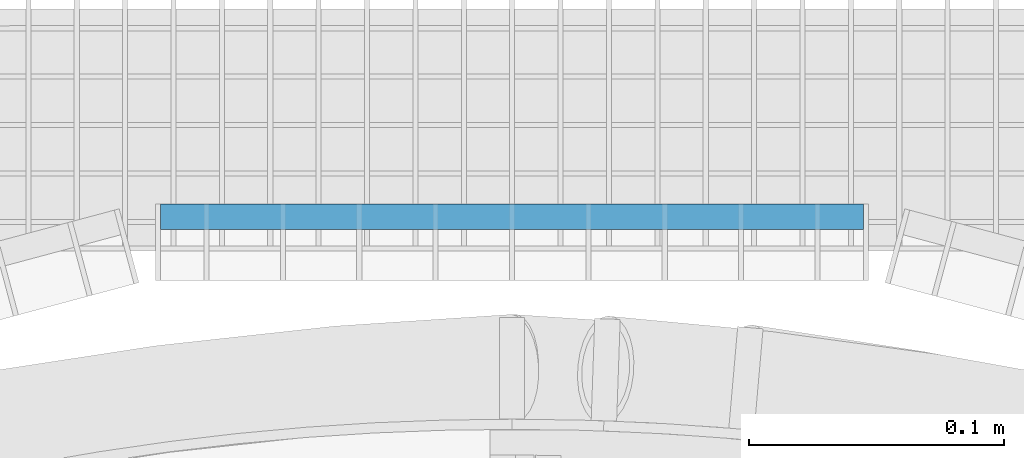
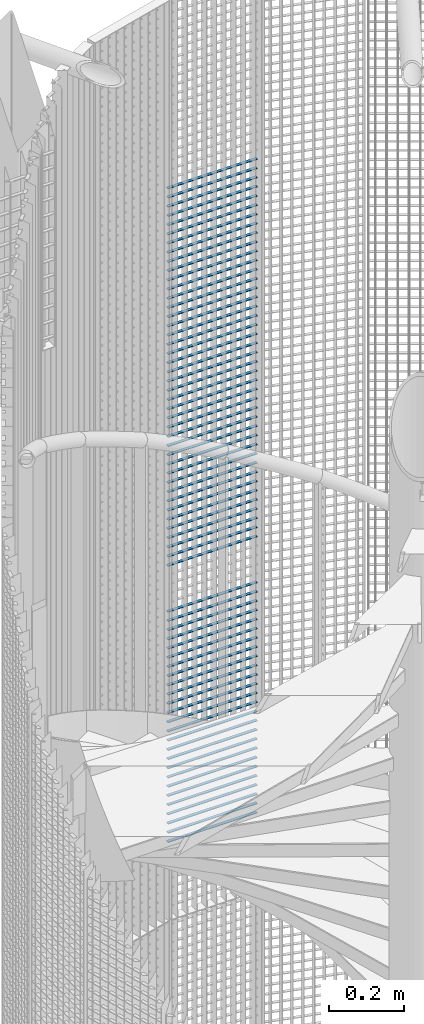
# One storey, part 305 of 1148: 68 beams, 1 element without a shape of its own.
"""IFC2X3 building model written with IfcOpenShell, lengths in millimetres."""

from ifc_helpers import new_model, si_unit, frame, origin_with_axes, origin_2d_with_axis, place, context, subcontext, project, spatial, rectangle, extrude, material, type_object, element, aggregate, save


model = new_model("IFC2X3")

# Units and contexts
model_context = context("Model", 3, precision=1e-05, world=origin_with_axes())
body_context = subcontext(model_context, "Body", "Model", "MODEL_VIEW")
ifc_project = project(units=[si_unit("LENGTHUNIT", "METRE", prefix="MILLI"), si_unit("AREAUNIT", "SQUARE_METRE"), si_unit("VOLUMEUNIT", "CUBIC_METRE"), si_unit("MASSUNIT", "GRAM", prefix="KILO"), si_unit("TIMEUNIT", "SECOND"), si_unit("PLANEANGLEUNIT", "RADIAN"), si_unit("SOLIDANGLEUNIT", "STERADIAN"), si_unit("THERMODYNAMICTEMPERATUREUNIT", "DEGREE_CELSIUS"), si_unit("LUMINOUSINTENSITYUNIT", "LUMEN")], contexts=[model_context])

# Site, building, storey
site_placement = place(None, origin_with_axes())
site = spatial("IfcSite", under=ifc_project, at=site_placement, Name="Undefined", CompositionType="ELEMENT")
building_placement = place(site_placement, origin_with_axes())
building = spatial("IfcBuilding", under=site, at=building_placement, Name="Undefined", CompositionType="ELEMENT")
storey_placement = place(building_placement, origin_with_axes())
storey = spatial("IfcBuildingStorey", under=building, at=storey_placement, Name="Undefined", CompositionType="ELEMENT", Elevation=0.0)

# Assembly, beams
assembly_placement = place(storey_placement, origin_with_axes())
assembly = element("IfcElementAssembly", 1, at=assembly_placement, inside=storey, Name="BORDURE", AssemblyPlace="NOTDEFINED", PredefinedType="NOTDEFINED")
ifc_material = material(Name="STEEL/S235JR")
beam_type = type_object("IfcBeamType", Name="PL2*10", PredefinedType="NOTDEFINED")
beam_1_placement = place(assembly_placement, frame((137.99600337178, 1113.47999999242, 5370.0), z_axis=(0.0, 1.0, 0.0), x_axis=(-1.0, 0.0, 0.0)))
beam_1 = element("IfcBeam", 2, at=beam_1_placement, type_object=beam_type, material=ifc_material, Name="ENTRETOISE", context=body_context, shape_type="SweptSolid", body=[
    extrude(rectangle(XDim=2.0, YDim=10.0, at=origin_2d_with_axis()), frame((275.999999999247, 9.09494701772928e-13, 1.53210777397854e-14), z_axis=(-1.0, 0.0, 0.0), x_axis=(0.0, -1.0, 0.0)), (0.0, 0.0, 1.0), 276.0),
])
beam_2_placement = place(assembly_placement, frame((137.99600337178, 1113.47999999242, 5340.0), z_axis=(0.0, 1.0, 0.0), x_axis=(-1.0, 0.0, 0.0)))
beam_2 = element("IfcBeam", 3, at=beam_2_placement, type_object=beam_type, material=ifc_material, Name="ENTRETOISE", context=body_context, shape_type="SweptSolid", body=[
    extrude(rectangle(XDim=2.0, YDim=10.0, at=origin_2d_with_axis()), frame((275.999999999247, 9.09494701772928e-13, 1.53210777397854e-14), z_axis=(-1.0, 0.0, 0.0), x_axis=(0.0, -1.0, 0.0)), (0.0, 0.0, 1.0), 276.0),
])
beam_3_placement = place(assembly_placement, frame((137.99600337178, 1113.47999999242, 5310.0), z_axis=(0.0, 1.0, 0.0), x_axis=(-1.0, 0.0, 0.0)))
beam_3 = element("IfcBeam", 4, at=beam_3_placement, type_object=beam_type, material=ifc_material, Name="ENTRETOISE", context=body_context, shape_type="SweptSolid", body=[
    extrude(rectangle(XDim=2.0, YDim=10.0, at=origin_2d_with_axis()), frame((275.999999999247, 9.09494701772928e-13, 1.53210777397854e-14), z_axis=(-1.0, 0.0, 0.0), x_axis=(0.0, -1.0, 0.0)), (0.0, 0.0, 1.0), 276.0),
])
beam_4_placement = place(assembly_placement, frame((137.99600337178, 1113.47999999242, 5280.0), z_axis=(0.0, 1.0, 0.0), x_axis=(-1.0, 0.0, 0.0)))
beam_4 = element("IfcBeam", 5, at=beam_4_placement, type_object=beam_type, material=ifc_material, Name="ENTRETOISE", context=body_context, shape_type="SweptSolid", body=[
    extrude(rectangle(XDim=2.0, YDim=10.0, at=origin_2d_with_axis()), frame((275.999999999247, 9.09494701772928e-13, 1.53210777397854e-14), z_axis=(-1.0, 0.0, 0.0), x_axis=(0.0, -1.0, 0.0)), (0.0, 0.0, 1.0), 276.0),
])
beam_5_placement = place(assembly_placement, frame((137.99600337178, 1113.47999999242, 5250.0), z_axis=(0.0, 1.0, 0.0), x_axis=(-1.0, 0.0, 0.0)))
beam_5 = element("IfcBeam", 6, at=beam_5_placement, type_object=beam_type, material=ifc_material, Name="ENTRETOISE", context=body_context, shape_type="SweptSolid", body=[
    extrude(rectangle(XDim=2.0, YDim=10.0, at=origin_2d_with_axis()), frame((275.999999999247, 9.09494701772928e-13, 1.53210777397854e-14), z_axis=(-1.0, 0.0, 0.0), x_axis=(0.0, -1.0, 0.0)), (0.0, 0.0, 1.0), 276.0),
])
beam_6_placement = place(assembly_placement, frame((137.99600337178, 1113.47999999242, 5220.0), z_axis=(0.0, 1.0, 0.0), x_axis=(-1.0, 0.0, 0.0)))
beam_6 = element("IfcBeam", 7, at=beam_6_placement, type_object=beam_type, material=ifc_material, Name="ENTRETOISE", context=body_context, shape_type="SweptSolid", body=[
    extrude(rectangle(XDim=2.0, YDim=10.0, at=origin_2d_with_axis()), frame((275.999999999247, 9.09494701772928e-13, 1.53210777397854e-14), z_axis=(-1.0, 0.0, 0.0), x_axis=(0.0, -1.0, 0.0)), (0.0, 0.0, 1.0), 276.0),
])
beam_7_placement = place(assembly_placement, frame((137.99600337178, 1113.47999999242, 5190.0), z_axis=(0.0, 1.0, 0.0), x_axis=(-1.0, 0.0, 0.0)))
beam_7 = element("IfcBeam", 8, at=beam_7_placement, type_object=beam_type, material=ifc_material, Name="ENTRETOISE", context=body_context, shape_type="SweptSolid", body=[
    extrude(rectangle(XDim=2.0, YDim=10.0, at=origin_2d_with_axis()), frame((275.999999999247, 9.09494701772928e-13, 1.53210777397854e-14), z_axis=(-1.0, 0.0, 0.0), x_axis=(0.0, -1.0, 0.0)), (0.0, 0.0, 1.0), 276.0),
])
beam_8_placement = place(assembly_placement, frame((137.99600337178, 1113.47999999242, 5160.0), z_axis=(0.0, 1.0, 0.0), x_axis=(-1.0, 0.0, 0.0)))
beam_8 = element("IfcBeam", 9, at=beam_8_placement, type_object=beam_type, material=ifc_material, Name="ENTRETOISE", context=body_context, shape_type="SweptSolid", body=[
    extrude(rectangle(XDim=2.0, YDim=10.0, at=origin_2d_with_axis()), frame((275.999999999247, 9.09494701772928e-13, 1.53210777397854e-14), z_axis=(-1.0, 0.0, 0.0), x_axis=(0.0, -1.0, 0.0)), (0.0, 0.0, 1.0), 276.0),
])
beam_9_placement = place(assembly_placement, frame((137.99600337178, 1113.47999999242, 5130.0), z_axis=(0.0, 1.0, 0.0), x_axis=(-1.0, 0.0, 0.0)))
beam_9 = element("IfcBeam", 10, at=beam_9_placement, type_object=beam_type, material=ifc_material, Name="ENTRETOISE", context=body_context, shape_type="SweptSolid", body=[
    extrude(rectangle(XDim=2.0, YDim=10.0, at=origin_2d_with_axis()), frame((275.999999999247, 9.09494701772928e-13, 1.53210777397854e-14), z_axis=(-1.0, 0.0, 0.0), x_axis=(0.0, -1.0, 0.0)), (0.0, 0.0, 1.0), 276.0),
])
beam_10_placement = place(assembly_placement, frame((137.996003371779, 1113.47999999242, 5100.0), z_axis=(0.0, 1.0, 0.0), x_axis=(-1.0, 0.0, 0.0)))
beam_10 = element("IfcBeam", 11, at=beam_10_placement, type_object=beam_type, material=ifc_material, Name="ENTRETOISE", context=body_context, shape_type="SweptSolid", body=[
    extrude(rectangle(XDim=2.0, YDim=10.0, at=origin_2d_with_axis()), frame((275.999999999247, 9.09494701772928e-13, 1.53210777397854e-14), z_axis=(-1.0, 0.0, 0.0), x_axis=(0.0, -1.0, 0.0)), (0.0, 0.0, 1.0), 276.0),
])
beam_11_placement = place(assembly_placement, frame((137.996003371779, 1113.47999999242, 5070.0), z_axis=(0.0, 1.0, 0.0), x_axis=(-1.0, 0.0, 0.0)))
beam_11 = element("IfcBeam", 12, at=beam_11_placement, type_object=beam_type, material=ifc_material, Name="ENTRETOISE", context=body_context, shape_type="SweptSolid", body=[
    extrude(rectangle(XDim=2.0, YDim=10.0, at=origin_2d_with_axis()), frame((275.999999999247, 9.09494701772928e-13, 1.53210777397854e-14), z_axis=(-1.0, 0.0, 0.0), x_axis=(0.0, -1.0, 0.0)), (0.0, 0.0, 1.0), 276.0),
])
beam_12_placement = place(assembly_placement, frame((137.996003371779, 1113.47999999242, 5040.0), z_axis=(0.0, 1.0, 0.0), x_axis=(-1.0, 0.0, 0.0)))
beam_12 = element("IfcBeam", 13, at=beam_12_placement, type_object=beam_type, material=ifc_material, Name="ENTRETOISE", context=body_context, shape_type="SweptSolid", body=[
    extrude(rectangle(XDim=2.0, YDim=10.0, at=origin_2d_with_axis()), frame((275.999999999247, 9.09494701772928e-13, 1.53210777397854e-14), z_axis=(-1.0, 0.0, 0.0), x_axis=(0.0, -1.0, 0.0)), (0.0, 0.0, 1.0), 276.0),
])
beam_13_placement = place(assembly_placement, frame((137.996003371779, 1113.47999999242, 5010.0), z_axis=(0.0, 1.0, 0.0), x_axis=(-1.0, 0.0, 0.0)))
beam_13 = element("IfcBeam", 14, at=beam_13_placement, type_object=beam_type, material=ifc_material, Name="ENTRETOISE", context=body_context, shape_type="SweptSolid", body=[
    extrude(rectangle(XDim=2.0, YDim=10.0, at=origin_2d_with_axis()), frame((275.999999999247, 9.09494701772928e-13, 1.53210777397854e-14), z_axis=(-1.0, 0.0, 0.0), x_axis=(0.0, -1.0, 0.0)), (0.0, 0.0, 1.0), 276.0),
])
beam_14_placement = place(assembly_placement, frame((137.996003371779, 1113.47999999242, 4980.0), z_axis=(0.0, 1.0, 0.0), x_axis=(-1.0, 0.0, 0.0)))
beam_14 = element("IfcBeam", 15, at=beam_14_placement, type_object=beam_type, material=ifc_material, Name="ENTRETOISE", context=body_context, shape_type="SweptSolid", body=[
    extrude(rectangle(XDim=2.0, YDim=10.0, at=origin_2d_with_axis()), frame((275.999999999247, 9.09494701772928e-13, 1.53210777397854e-14), z_axis=(-1.0, 0.0, 0.0), x_axis=(0.0, -1.0, 0.0)), (0.0, 0.0, 1.0), 276.0),
])
beam_15_placement = place(assembly_placement, frame((137.996003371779, 1113.47999999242, 4950.0), z_axis=(0.0, 1.0, 0.0), x_axis=(-1.0, 0.0, 0.0)))
beam_15 = element("IfcBeam", 16, at=beam_15_placement, type_object=beam_type, material=ifc_material, Name="ENTRETOISE", context=body_context, shape_type="SweptSolid", body=[
    extrude(rectangle(XDim=2.0, YDim=10.0, at=origin_2d_with_axis()), frame((275.999999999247, 9.09494701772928e-13, 1.53210777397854e-14), z_axis=(-1.0, 0.0, 0.0), x_axis=(0.0, -1.0, 0.0)), (0.0, 0.0, 1.0), 276.0),
])
beam_16_placement = place(assembly_placement, frame((137.996003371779, 1113.47999999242, 4920.0), z_axis=(0.0, 1.0, 0.0), x_axis=(-1.0, 0.0, 0.0)))
beam_16 = element("IfcBeam", 17, at=beam_16_placement, type_object=beam_type, material=ifc_material, Name="ENTRETOISE", context=body_context, shape_type="SweptSolid", body=[
    extrude(rectangle(XDim=2.0, YDim=10.0, at=origin_2d_with_axis()), frame((275.999999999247, 9.09494701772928e-13, 1.53210777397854e-14), z_axis=(-1.0, 0.0, 0.0), x_axis=(0.0, -1.0, 0.0)), (0.0, 0.0, 1.0), 276.0),
])
beam_17_placement = place(assembly_placement, frame((137.996003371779, 1113.47999999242, 4890.0), z_axis=(0.0, 1.0, 0.0), x_axis=(-1.0, 0.0, 0.0)))
beam_17 = element("IfcBeam", 18, at=beam_17_placement, type_object=beam_type, material=ifc_material, Name="ENTRETOISE", context=body_context, shape_type="SweptSolid", body=[
    extrude(rectangle(XDim=2.0, YDim=10.0, at=origin_2d_with_axis()), frame((275.999999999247, 9.09494701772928e-13, 1.53210777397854e-14), z_axis=(-1.0, 0.0, 0.0), x_axis=(0.0, -1.0, 0.0)), (0.0, 0.0, 1.0), 276.0),
])
beam_18_placement = place(assembly_placement, frame((137.996003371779, 1113.47999999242, 4860.0), z_axis=(0.0, 1.0, 0.0), x_axis=(-1.0, 0.0, 0.0)))
beam_18 = element("IfcBeam", 19, at=beam_18_placement, type_object=beam_type, material=ifc_material, Name="ENTRETOISE", context=body_context, shape_type="SweptSolid", body=[
    extrude(rectangle(XDim=2.0, YDim=10.0, at=origin_2d_with_axis()), frame((275.999999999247, 9.09494701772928e-13, 1.53210777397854e-14), z_axis=(-1.0, 0.0, 0.0), x_axis=(0.0, -1.0, 0.0)), (0.0, 0.0, 1.0), 276.0),
])
beam_19_placement = place(assembly_placement, frame((137.996003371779, 1113.47999999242, 4830.0), z_axis=(0.0, 1.0, 0.0), x_axis=(-1.0, 0.0, 0.0)))
beam_19 = element("IfcBeam", 20, at=beam_19_placement, type_object=beam_type, material=ifc_material, Name="ENTRETOISE", context=body_context, shape_type="SweptSolid", body=[
    extrude(rectangle(XDim=2.0, YDim=10.0, at=origin_2d_with_axis()), frame((275.999999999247, 9.09494701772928e-13, 1.53210777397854e-14), z_axis=(-1.0, 0.0, 0.0), x_axis=(0.0, -1.0, 0.0)), (0.0, 0.0, 1.0), 276.0),
])
beam_20_placement = place(assembly_placement, frame((137.996003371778, 1113.47999999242, 4800.0), z_axis=(0.0, 1.0, 0.0), x_axis=(-1.0, 0.0, 0.0)))
beam_20 = element("IfcBeam", 21, at=beam_20_placement, type_object=beam_type, material=ifc_material, Name="ENTRETOISE", context=body_context, shape_type="SweptSolid", body=[
    extrude(rectangle(XDim=2.0, YDim=10.0, at=origin_2d_with_axis()), frame((275.999999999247, 9.09494701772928e-13, 1.53210777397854e-14), z_axis=(-1.0, 0.0, 0.0), x_axis=(0.0, -1.0, 0.0)), (0.0, 0.0, 1.0), 276.0),
])
beam_21_placement = place(assembly_placement, frame((137.996003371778, 1113.47999999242, 4770.0), z_axis=(0.0, 1.0, 0.0), x_axis=(-1.0, 0.0, 0.0)))
beam_21 = element("IfcBeam", 22, at=beam_21_placement, type_object=beam_type, material=ifc_material, Name="ENTRETOISE", context=body_context, shape_type="SweptSolid", body=[
    extrude(rectangle(XDim=2.0, YDim=10.0, at=origin_2d_with_axis()), frame((275.999999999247, 9.09494701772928e-13, 1.53210777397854e-14), z_axis=(-1.0, 0.0, 0.0), x_axis=(0.0, -1.0, 0.0)), (0.0, 0.0, 1.0), 276.0),
])
beam_22_placement = place(assembly_placement, frame((137.996003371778, 1113.47999999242, 4740.0), z_axis=(0.0, 1.0, 0.0), x_axis=(-1.0, 0.0, 0.0)))
beam_22 = element("IfcBeam", 23, at=beam_22_placement, type_object=beam_type, material=ifc_material, Name="ENTRETOISE", context=body_context, shape_type="SweptSolid", body=[
    extrude(rectangle(XDim=2.0, YDim=10.0, at=origin_2d_with_axis()), frame((275.999999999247, 9.09494701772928e-13, 1.53210777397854e-14), z_axis=(-1.0, 0.0, 0.0), x_axis=(0.0, -1.0, 0.0)), (0.0, 0.0, 1.0), 276.0),
])
beam_23_placement = place(assembly_placement, frame((137.996003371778, 1113.47999999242, 4710.0), z_axis=(0.0, 1.0, 0.0), x_axis=(-1.0, 0.0, 0.0)))
beam_23 = element("IfcBeam", 24, at=beam_23_placement, type_object=beam_type, material=ifc_material, Name="ENTRETOISE", context=body_context, shape_type="SweptSolid", body=[
    extrude(rectangle(XDim=2.0, YDim=10.0, at=origin_2d_with_axis()), frame((275.999999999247, 9.09494701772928e-13, 1.53210777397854e-14), z_axis=(-1.0, 0.0, 0.0), x_axis=(0.0, -1.0, 0.0)), (0.0, 0.0, 1.0), 276.0),
])
beam_24_placement = place(assembly_placement, frame((137.996003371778, 1113.47999999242, 4680.0), z_axis=(0.0, 1.0, 0.0), x_axis=(-1.0, 0.0, 0.0)))
beam_24 = element("IfcBeam", 25, at=beam_24_placement, type_object=beam_type, material=ifc_material, Name="ENTRETOISE", context=body_context, shape_type="SweptSolid", body=[
    extrude(rectangle(XDim=2.0, YDim=10.0, at=origin_2d_with_axis()), frame((275.999999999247, 9.09494701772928e-13, 1.53210777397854e-14), z_axis=(-1.0, 0.0, 0.0), x_axis=(0.0, -1.0, 0.0)), (0.0, 0.0, 1.0), 276.0),
])
beam_25_placement = place(assembly_placement, frame((137.996003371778, 1113.47999999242, 4650.0), z_axis=(0.0, 1.0, 0.0), x_axis=(-1.0, 0.0, 0.0)))
beam_25 = element("IfcBeam", 26, at=beam_25_placement, type_object=beam_type, material=ifc_material, Name="ENTRETOISE", context=body_context, shape_type="SweptSolid", body=[
    extrude(rectangle(XDim=2.0, YDim=10.0, at=origin_2d_with_axis()), frame((275.999999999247, 9.09494701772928e-13, 1.53210777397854e-14), z_axis=(-1.0, 0.0, 0.0), x_axis=(0.0, -1.0, 0.0)), (0.0, 0.0, 1.0), 276.0),
])
beam_26_placement = place(assembly_placement, frame((137.996003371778, 1113.47999999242, 4620.0), z_axis=(0.0, 1.0, 0.0), x_axis=(-1.0, 0.0, 0.0)))
beam_26 = element("IfcBeam", 27, at=beam_26_placement, type_object=beam_type, material=ifc_material, Name="ENTRETOISE", context=body_context, shape_type="SweptSolid", body=[
    extrude(rectangle(XDim=2.0, YDim=10.0, at=origin_2d_with_axis()), frame((275.999999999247, 9.09494701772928e-13, 1.53210777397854e-14), z_axis=(-1.0, 0.0, 0.0), x_axis=(0.0, -1.0, 0.0)), (0.0, 0.0, 1.0), 276.0),
])
beam_27_placement = place(assembly_placement, frame((137.996003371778, 1113.47999999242, 4590.0), z_axis=(0.0, 1.0, 0.0), x_axis=(-1.0, 0.0, 0.0)))
beam_27 = element("IfcBeam", 28, at=beam_27_placement, type_object=beam_type, material=ifc_material, Name="ENTRETOISE", context=body_context, shape_type="SweptSolid", body=[
    extrude(rectangle(XDim=2.0, YDim=10.0, at=origin_2d_with_axis()), frame((275.999999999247, 9.09494701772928e-13, 1.53210777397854e-14), z_axis=(-1.0, 0.0, 0.0), x_axis=(0.0, -1.0, 0.0)), (0.0, 0.0, 1.0), 276.0),
])
beam_28_placement = place(assembly_placement, frame((137.996003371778, 1113.47999999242, 4560.0), z_axis=(0.0, 1.0, 0.0), x_axis=(-1.0, 0.0, 0.0)))
beam_28 = element("IfcBeam", 29, at=beam_28_placement, type_object=beam_type, material=ifc_material, Name="ENTRETOISE", context=body_context, shape_type="SweptSolid", body=[
    extrude(rectangle(XDim=2.0, YDim=10.0, at=origin_2d_with_axis()), frame((275.999999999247, 9.09494701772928e-13, 1.53210777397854e-14), z_axis=(-1.0, 0.0, 0.0), x_axis=(0.0, -1.0, 0.0)), (0.0, 0.0, 1.0), 276.0),
])
beam_29_placement = place(assembly_placement, frame((137.996003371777, 1113.47999999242, 4530.0), z_axis=(0.0, 1.0, 0.0), x_axis=(-1.0, 0.0, 0.0)))
beam_29 = element("IfcBeam", 30, at=beam_29_placement, type_object=beam_type, material=ifc_material, Name="ENTRETOISE", context=body_context, shape_type="SweptSolid", body=[
    extrude(rectangle(XDim=2.0, YDim=10.0, at=origin_2d_with_axis()), frame((275.999999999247, 9.09494701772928e-13, 1.53210777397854e-14), z_axis=(-1.0, 0.0, 0.0), x_axis=(0.0, -1.0, 0.0)), (0.0, 0.0, 1.0), 276.0),
])
beam_30_placement = place(assembly_placement, frame((137.996003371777, 1113.47999999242, 4500.0), z_axis=(0.0, 1.0, 0.0), x_axis=(-1.0, 0.0, 0.0)))
beam_30 = element("IfcBeam", 31, at=beam_30_placement, type_object=beam_type, material=ifc_material, Name="ENTRETOISE", context=body_context, shape_type="SweptSolid", body=[
    extrude(rectangle(XDim=2.0, YDim=10.0, at=origin_2d_with_axis()), frame((275.999999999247, 9.09494701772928e-13, 1.53210777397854e-14), z_axis=(-1.0, 0.0, 0.0), x_axis=(0.0, -1.0, 0.0)), (0.0, 0.0, 1.0), 276.0),
])
beam_31_placement = place(assembly_placement, frame((137.996003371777, 1113.47999999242, 4470.0), z_axis=(0.0, 1.0, 0.0), x_axis=(-1.0, 0.0, 0.0)))
beam_31 = element("IfcBeam", 32, at=beam_31_placement, type_object=beam_type, material=ifc_material, Name="ENTRETOISE", context=body_context, shape_type="SweptSolid", body=[
    extrude(rectangle(XDim=2.0, YDim=10.0, at=origin_2d_with_axis()), frame((275.999999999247, 9.09494701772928e-13, 1.53210777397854e-14), z_axis=(-1.0, 0.0, 0.0), x_axis=(0.0, -1.0, 0.0)), (0.0, 0.0, 1.0), 276.0),
])
beam_32_placement = place(assembly_placement, frame((137.996003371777, 1113.47999999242, 4440.0), z_axis=(0.0, 1.0, 0.0), x_axis=(-1.0, 0.0, 0.0)))
beam_32 = element("IfcBeam", 33, at=beam_32_placement, type_object=beam_type, material=ifc_material, Name="ENTRETOISE", context=body_context, shape_type="SweptSolid", body=[
    extrude(rectangle(XDim=2.0, YDim=10.0, at=origin_2d_with_axis()), frame((275.999999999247, 9.09494701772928e-13, 1.53210777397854e-14), z_axis=(-1.0, 0.0, 0.0), x_axis=(0.0, -1.0, 0.0)), (0.0, 0.0, 1.0), 276.0),
])
beam_33_placement = place(assembly_placement, frame((137.996003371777, 1113.47999999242, 4410.0), z_axis=(0.0, 1.0, 0.0), x_axis=(-1.0, 0.0, 0.0)))
beam_33 = element("IfcBeam", 34, at=beam_33_placement, type_object=beam_type, material=ifc_material, Name="ENTRETOISE", context=body_context, shape_type="SweptSolid", body=[
    extrude(rectangle(XDim=2.0, YDim=10.0, at=origin_2d_with_axis()), frame((275.999999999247, 9.09494701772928e-13, 1.53210777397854e-14), z_axis=(-1.0, 0.0, 0.0), x_axis=(0.0, -1.0, 0.0)), (0.0, 0.0, 1.0), 276.0),
])
beam_34_placement = place(assembly_placement, frame((137.996003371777, 1113.47999999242, 4380.0), z_axis=(0.0, 1.0, 0.0), x_axis=(-1.0, 0.0, 0.0)))
beam_34 = element("IfcBeam", 35, at=beam_34_placement, type_object=beam_type, material=ifc_material, Name="ENTRETOISE", context=body_context, shape_type="SweptSolid", body=[
    extrude(rectangle(XDim=2.0, YDim=10.0, at=origin_2d_with_axis()), frame((275.999999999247, 9.09494701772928e-13, 1.53210777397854e-14), z_axis=(-1.0, 0.0, 0.0), x_axis=(0.0, -1.0, 0.0)), (0.0, 0.0, 1.0), 276.0),
])
beam_35_placement = place(assembly_placement, frame((137.996003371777, 1113.47999999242, 4350.0), z_axis=(0.0, 1.0, 0.0), x_axis=(-1.0, 0.0, 0.0)))
beam_35 = element("IfcBeam", 36, at=beam_35_placement, type_object=beam_type, material=ifc_material, Name="ENTRETOISE", context=body_context, shape_type="SweptSolid", body=[
    extrude(rectangle(XDim=2.0, YDim=10.0, at=origin_2d_with_axis()), frame((275.999999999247, 9.09494701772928e-13, 1.53210777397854e-14), z_axis=(-1.0, 0.0, 0.0), x_axis=(0.0, -1.0, 0.0)), (0.0, 0.0, 1.0), 276.0),
])
beam_36_placement = place(assembly_placement, frame((137.996003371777, 1113.47999999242, 4320.0), z_axis=(0.0, 1.0, 0.0), x_axis=(-1.0, 0.0, 0.0)))
beam_36 = element("IfcBeam", 37, at=beam_36_placement, type_object=beam_type, material=ifc_material, Name="ENTRETOISE", context=body_context, shape_type="SweptSolid", body=[
    extrude(rectangle(XDim=2.0, YDim=10.0, at=origin_2d_with_axis()), frame((275.999999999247, 9.09494701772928e-13, 1.53210777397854e-14), z_axis=(-1.0, 0.0, 0.0), x_axis=(0.0, -1.0, 0.0)), (0.0, 0.0, 1.0), 276.0),
])
beam_37_placement = place(assembly_placement, frame((137.996003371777, 1113.47999999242, 4290.0), z_axis=(0.0, 1.0, 0.0), x_axis=(-1.0, 0.0, 0.0)))
beam_37 = element("IfcBeam", 38, at=beam_37_placement, type_object=beam_type, material=ifc_material, Name="ENTRETOISE", context=body_context, shape_type="SweptSolid", body=[
    extrude(rectangle(XDim=2.0, YDim=10.0, at=origin_2d_with_axis()), frame((275.999999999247, 9.09494701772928e-13, 1.53210777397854e-14), z_axis=(-1.0, 0.0, 0.0), x_axis=(0.0, -1.0, 0.0)), (0.0, 0.0, 1.0), 276.0),
])
beam_38_placement = place(assembly_placement, frame((137.996003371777, 1113.47999999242, 4260.0), z_axis=(0.0, 1.0, 0.0), x_axis=(-1.0, 0.0, 0.0)))
beam_38 = element("IfcBeam", 39, at=beam_38_placement, type_object=beam_type, material=ifc_material, Name="ENTRETOISE", context=body_context, shape_type="SweptSolid", body=[
    extrude(rectangle(XDim=2.0, YDim=10.0, at=origin_2d_with_axis()), frame((275.999999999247, 9.09494701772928e-13, 1.53210777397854e-14), z_axis=(-1.0, 0.0, 0.0), x_axis=(0.0, -1.0, 0.0)), (0.0, 0.0, 1.0), 276.0),
])
beam_39_placement = place(assembly_placement, frame((137.996003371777, 1113.47999999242, 4230.0), z_axis=(0.0, 1.0, 0.0), x_axis=(-1.0, 0.0, 0.0)))
beam_39 = element("IfcBeam", 40, at=beam_39_placement, type_object=beam_type, material=ifc_material, Name="ENTRETOISE", context=body_context, shape_type="SweptSolid", body=[
    extrude(rectangle(XDim=2.0, YDim=10.0, at=origin_2d_with_axis()), frame((275.999999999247, 9.09494701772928e-13, 1.53210777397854e-14), z_axis=(-1.0, 0.0, 0.0), x_axis=(0.0, -1.0, 0.0)), (0.0, 0.0, 1.0), 276.0),
])
beam_40_placement = place(assembly_placement, frame((137.996003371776, 1113.47999999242, 4200.0), z_axis=(0.0, 1.0, 0.0), x_axis=(-1.0, 0.0, 0.0)))
beam_40 = element("IfcBeam", 41, at=beam_40_placement, type_object=beam_type, material=ifc_material, Name="ENTRETOISE", context=body_context, shape_type="SweptSolid", body=[
    extrude(rectangle(XDim=2.0, YDim=10.0, at=origin_2d_with_axis()), frame((275.999999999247, 9.09494701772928e-13, 1.53210777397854e-14), z_axis=(-1.0, 0.0, 0.0), x_axis=(0.0, -1.0, 0.0)), (0.0, 0.0, 1.0), 276.0),
])
beam_41_placement = place(assembly_placement, frame((137.996003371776, 1113.47999999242, 4170.0), z_axis=(0.0, 1.0, 0.0), x_axis=(-1.0, 0.0, 0.0)))
beam_41 = element("IfcBeam", 42, at=beam_41_placement, type_object=beam_type, material=ifc_material, Name="ENTRETOISE", context=body_context, shape_type="SweptSolid", body=[
    extrude(rectangle(XDim=2.0, YDim=10.0, at=origin_2d_with_axis()), frame((275.999999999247, 9.09494701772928e-13, 1.53210777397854e-14), z_axis=(-1.0, 0.0, 0.0), x_axis=(0.0, -1.0, 0.0)), (0.0, 0.0, 1.0), 276.0),
])
beam_42_placement = place(assembly_placement, frame((137.996003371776, 1113.47999999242, 4140.0), z_axis=(0.0, 1.0, 0.0), x_axis=(-1.0, 0.0, 0.0)))
beam_42 = element("IfcBeam", 43, at=beam_42_placement, type_object=beam_type, material=ifc_material, Name="ENTRETOISE", context=body_context, shape_type="SweptSolid", body=[
    extrude(rectangle(XDim=2.0, YDim=10.0, at=origin_2d_with_axis()), frame((275.999999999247, 9.09494701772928e-13, 1.53210777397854e-14), z_axis=(-1.0, 0.0, 0.0), x_axis=(0.0, -1.0, 0.0)), (0.0, 0.0, 1.0), 276.0),
])
beam_43_placement = place(assembly_placement, frame((137.996003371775, 1113.47999999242, 3720.0), z_axis=(0.0, 1.0, 0.0), x_axis=(-1.0, 0.0, 0.0)))
beam_43 = element("IfcBeam", 44, at=beam_43_placement, type_object=beam_type, material=ifc_material, Name="ENTRETOISE", context=body_context, shape_type="SweptSolid", body=[
    extrude(rectangle(XDim=2.0, YDim=10.0, at=origin_2d_with_axis()), frame((275.999999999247, 9.09494701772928e-13, 1.53210777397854e-14), z_axis=(-1.0, 0.0, 0.0), x_axis=(0.0, -1.0, 0.0)), (0.0, 0.0, 1.0), 276.0),
])
beam_44_placement = place(assembly_placement, frame((137.996003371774, 1113.47999999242, 3690.0), z_axis=(0.0, 1.0, 0.0), x_axis=(-1.0, 0.0, 0.0)))
beam_44 = element("IfcBeam", 45, at=beam_44_placement, type_object=beam_type, material=ifc_material, Name="ENTRETOISE", context=body_context, shape_type="SweptSolid", body=[
    extrude(rectangle(XDim=2.0, YDim=10.0, at=origin_2d_with_axis()), frame((275.999999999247, 9.09494701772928e-13, 1.53210777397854e-14), z_axis=(-1.0, 0.0, 0.0), x_axis=(0.0, -1.0, 0.0)), (0.0, 0.0, 1.0), 276.0),
])
beam_45_placement = place(assembly_placement, frame((137.996003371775, 1113.47999999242, 3750.0), z_axis=(0.0, 1.0, 0.0), x_axis=(-1.0, 0.0, 0.0)))
beam_45 = element("IfcBeam", 46, at=beam_45_placement, type_object=beam_type, material=ifc_material, Name="ENTRETOISE", context=body_context, shape_type="SweptSolid", body=[
    extrude(rectangle(XDim=2.0, YDim=10.0, at=origin_2d_with_axis()), frame((275.999999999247, 9.09494701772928e-13, 1.53210777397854e-14), z_axis=(-1.0, 0.0, 0.0), x_axis=(0.0, -1.0, 0.0)), (0.0, 0.0, 1.0), 276.0),
])
beam_46_placement = place(assembly_placement, frame((137.996003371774, 1113.47999999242, 3660.0), z_axis=(0.0, 1.0, 0.0), x_axis=(-1.0, 0.0, 0.0)))
beam_46 = element("IfcBeam", 47, at=beam_46_placement, type_object=beam_type, material=ifc_material, Name="ENTRETOISE", context=body_context, shape_type="SweptSolid", body=[
    extrude(rectangle(XDim=2.0, YDim=10.0, at=origin_2d_with_axis()), frame((275.999999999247, 9.09494701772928e-13, 1.53210777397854e-14), z_axis=(-1.0, 0.0, 0.0), x_axis=(0.0, -1.0, 0.0)), (0.0, 0.0, 1.0), 276.0),
])
beam_47_placement = place(assembly_placement, frame((137.996003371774, 1113.47999999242, 3630.0), z_axis=(0.0, 1.0, 0.0), x_axis=(-1.0, 0.0, 0.0)))
beam_47 = element("IfcBeam", 48, at=beam_47_placement, type_object=beam_type, material=ifc_material, Name="ENTRETOISE", context=body_context, shape_type="SweptSolid", body=[
    extrude(rectangle(XDim=2.0, YDim=10.0, at=origin_2d_with_axis()), frame((275.999999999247, 9.09494701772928e-13, 1.53210777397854e-14), z_axis=(-1.0, 0.0, 0.0), x_axis=(0.0, -1.0, 0.0)), (0.0, 0.0, 1.0), 276.0),
])
beam_48_placement = place(assembly_placement, frame((137.996003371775, 1113.47999999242, 3780.0), z_axis=(0.0, 1.0, 0.0), x_axis=(-1.0, 0.0, 0.0)))
beam_48 = element("IfcBeam", 49, at=beam_48_placement, type_object=beam_type, material=ifc_material, Name="ENTRETOISE", context=body_context, shape_type="SweptSolid", body=[
    extrude(rectangle(XDim=2.0, YDim=10.0, at=origin_2d_with_axis()), frame((275.999999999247, 9.09494701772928e-13, 1.53210777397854e-14), z_axis=(-1.0, 0.0, 0.0), x_axis=(0.0, -1.0, 0.0)), (0.0, 0.0, 1.0), 276.0),
])
beam_49_placement = place(assembly_placement, frame((137.996003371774, 1113.47999999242, 3600.0), z_axis=(0.0, 1.0, 0.0), x_axis=(-1.0, 0.0, 0.0)))
beam_49 = element("IfcBeam", 50, at=beam_49_placement, type_object=beam_type, material=ifc_material, Name="ENTRETOISE", context=body_context, shape_type="SweptSolid", body=[
    extrude(rectangle(XDim=2.0, YDim=10.0, at=origin_2d_with_axis()), frame((275.999999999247, 9.09494701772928e-13, 1.53210777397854e-14), z_axis=(-1.0, 0.0, 0.0), x_axis=(0.0, -1.0, 0.0)), (0.0, 0.0, 1.0), 276.0),
])
beam_50_placement = place(assembly_placement, frame((137.996003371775, 1113.47999999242, 3810.0), z_axis=(0.0, 1.0, 0.0), x_axis=(-1.0, 0.0, 0.0)))
beam_50 = element("IfcBeam", 51, at=beam_50_placement, type_object=beam_type, material=ifc_material, Name="ENTRETOISE", context=body_context, shape_type="SweptSolid", body=[
    extrude(rectangle(XDim=2.0, YDim=10.0, at=origin_2d_with_axis()), frame((275.999999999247, 9.09494701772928e-13, 1.53210777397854e-14), z_axis=(-1.0, 0.0, 0.0), x_axis=(0.0, -1.0, 0.0)), (0.0, 0.0, 1.0), 276.0),
])
beam_51_placement = place(assembly_placement, frame((137.996003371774, 1113.47999999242, 3570.0), z_axis=(0.0, 1.0, 0.0), x_axis=(-1.0, 0.0, 0.0)))
beam_51 = element("IfcBeam", 52, at=beam_51_placement, type_object=beam_type, material=ifc_material, Name="ENTRETOISE", context=body_context, shape_type="SweptSolid", body=[
    extrude(rectangle(XDim=2.0, YDim=10.0, at=origin_2d_with_axis()), frame((275.999999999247, 9.09494701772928e-13, 1.53210777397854e-14), z_axis=(-1.0, 0.0, 0.0), x_axis=(0.0, -1.0, 0.0)), (0.0, 0.0, 1.0), 276.0),
])
beam_52_placement = place(assembly_placement, frame((137.996003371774, 1113.47999999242, 3540.0), z_axis=(0.0, 1.0, 0.0), x_axis=(-1.0, 0.0, 0.0)))
beam_52 = element("IfcBeam", 53, at=beam_52_placement, type_object=beam_type, material=ifc_material, Name="ENTRETOISE", context=body_context, shape_type="SweptSolid", body=[
    extrude(rectangle(XDim=2.0, YDim=10.0, at=origin_2d_with_axis()), frame((275.999999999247, 9.09494701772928e-13, 1.53210777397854e-14), z_axis=(-1.0, 0.0, 0.0), x_axis=(0.0, -1.0, 0.0)), (0.0, 0.0, 1.0), 276.0),
])
beam_53_placement = place(assembly_placement, frame((137.996003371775, 1113.47999999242, 3840.0), z_axis=(0.0, 1.0, 0.0), x_axis=(-1.0, 0.0, 0.0)))
beam_53 = element("IfcBeam", 54, at=beam_53_placement, type_object=beam_type, material=ifc_material, Name="ENTRETOISE", context=body_context, shape_type="SweptSolid", body=[
    extrude(rectangle(XDim=2.0, YDim=10.0, at=origin_2d_with_axis()), frame((275.999999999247, 9.09494701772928e-13, 1.53210777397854e-14), z_axis=(-1.0, 0.0, 0.0), x_axis=(0.0, -1.0, 0.0)), (0.0, 0.0, 1.0), 276.0),
])
beam_54_placement = place(assembly_placement, frame((137.996003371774, 1113.47999999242, 3510.0), z_axis=(0.0, 1.0, 0.0), x_axis=(-1.0, 0.0, 0.0)))
beam_54 = element("IfcBeam", 55, at=beam_54_placement, type_object=beam_type, material=ifc_material, Name="ENTRETOISE", context=body_context, shape_type="SweptSolid", body=[
    extrude(rectangle(XDim=2.0, YDim=10.0, at=origin_2d_with_axis()), frame((275.999999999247, 9.09494701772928e-13, 1.53210777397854e-14), z_axis=(-1.0, 0.0, 0.0), x_axis=(0.0, -1.0, 0.0)), (0.0, 0.0, 1.0), 276.0),
])
beam_55_placement = place(assembly_placement, frame((137.996003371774, 1113.47999999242, 3480.0), z_axis=(0.0, 1.0, 0.0), x_axis=(-1.0, 0.0, 0.0)))
beam_55 = element("IfcBeam", 56, at=beam_55_placement, type_object=beam_type, material=ifc_material, Name="ENTRETOISE", context=body_context, shape_type="SweptSolid", body=[
    extrude(rectangle(XDim=2.0, YDim=10.0, at=origin_2d_with_axis()), frame((275.999999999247, 9.09494701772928e-13, 1.53210777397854e-14), z_axis=(-1.0, 0.0, 0.0), x_axis=(0.0, -1.0, 0.0)), (0.0, 0.0, 1.0), 276.0),
])
beam_56_placement = place(assembly_placement, frame((137.996003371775, 1113.47999999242, 3870.0), z_axis=(0.0, 1.0, 0.0), x_axis=(-1.0, 0.0, 0.0)))
beam_56 = element("IfcBeam", 57, at=beam_56_placement, type_object=beam_type, material=ifc_material, Name="ENTRETOISE", context=body_context, shape_type="SweptSolid", body=[
    extrude(rectangle(XDim=2.0, YDim=10.0, at=origin_2d_with_axis()), frame((275.999999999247, 9.09494701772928e-13, 1.53210777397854e-14), z_axis=(-1.0, 0.0, 0.0), x_axis=(0.0, -1.0, 0.0)), (0.0, 0.0, 1.0), 276.0),
])
beam_57_placement = place(assembly_placement, frame((137.996003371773, 1113.47999999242, 3450.0), z_axis=(0.0, 1.0, 0.0), x_axis=(-1.0, 0.0, 0.0)))
beam_57 = element("IfcBeam", 58, at=beam_57_placement, type_object=beam_type, material=ifc_material, Name="ENTRETOISE", context=body_context, shape_type="SweptSolid", body=[
    extrude(rectangle(XDim=2.0, YDim=10.0, at=origin_2d_with_axis()), frame((275.999999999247, 9.09494701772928e-13, 1.53210777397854e-14), z_axis=(-1.0, 0.0, 0.0), x_axis=(0.0, -1.0, 0.0)), (0.0, 0.0, 1.0), 276.0),
])
beam_58_placement = place(assembly_placement, frame((137.996003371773, 1113.47999999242, 3420.0), z_axis=(0.0, 1.0, 0.0), x_axis=(-1.0, 0.0, 0.0)))
beam_58 = element("IfcBeam", 59, at=beam_58_placement, type_object=beam_type, material=ifc_material, Name="ENTRETOISE", context=body_context, shape_type="SweptSolid", body=[
    extrude(rectangle(XDim=2.0, YDim=10.0, at=origin_2d_with_axis()), frame((275.999999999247, 9.09494701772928e-13, 1.53210777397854e-14), z_axis=(-1.0, 0.0, 0.0), x_axis=(0.0, -1.0, 0.0)), (0.0, 0.0, 1.0), 276.0),
])
beam_59_placement = place(assembly_placement, frame((137.996003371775, 1113.47999999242, 3900.0), z_axis=(0.0, 1.0, 0.0), x_axis=(-1.0, 0.0, 0.0)))
beam_59 = element("IfcBeam", 60, at=beam_59_placement, type_object=beam_type, material=ifc_material, Name="ENTRETOISE", context=body_context, shape_type="SweptSolid", body=[
    extrude(rectangle(XDim=2.0, YDim=10.0, at=origin_2d_with_axis()), frame((275.999999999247, 9.09494701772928e-13, 1.53210777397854e-14), z_axis=(-1.0, 0.0, 0.0), x_axis=(0.0, -1.0, 0.0)), (0.0, 0.0, 1.0), 276.0),
])
beam_60_placement = place(assembly_placement, frame((137.996003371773, 1113.47999999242, 3390.0), z_axis=(0.0, 1.0, 0.0), x_axis=(-1.0, 0.0, 0.0)))
beam_60 = element("IfcBeam", 61, at=beam_60_placement, type_object=beam_type, material=ifc_material, Name="ENTRETOISE", context=body_context, shape_type="SweptSolid", body=[
    extrude(rectangle(XDim=2.0, YDim=10.0, at=origin_2d_with_axis()), frame((275.999999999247, 9.09494701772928e-13, 1.53210777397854e-14), z_axis=(-1.0, 0.0, 0.0), x_axis=(0.0, -1.0, 0.0)), (0.0, 0.0, 1.0), 276.0),
])
beam_61_placement = place(assembly_placement, frame((137.996003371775, 1113.47999999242, 3930.0), z_axis=(0.0, 1.0, 0.0), x_axis=(-1.0, 0.0, 0.0)))
beam_61 = element("IfcBeam", 62, at=beam_61_placement, type_object=beam_type, material=ifc_material, Name="ENTRETOISE", context=body_context, shape_type="SweptSolid", body=[
    extrude(rectangle(XDim=2.0, YDim=10.0, at=origin_2d_with_axis()), frame((275.999999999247, 9.09494701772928e-13, 1.53210777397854e-14), z_axis=(-1.0, 0.0, 0.0), x_axis=(0.0, -1.0, 0.0)), (0.0, 0.0, 1.0), 276.0),
])
beam_62_placement = place(assembly_placement, frame((137.996003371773, 1113.47999999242, 3360.0), z_axis=(0.0, 1.0, 0.0), x_axis=(-1.0, 0.0, 0.0)))
beam_62 = element("IfcBeam", 63, at=beam_62_placement, type_object=beam_type, material=ifc_material, Name="ENTRETOISE", context=body_context, shape_type="SweptSolid", body=[
    extrude(rectangle(XDim=2.0, YDim=10.0, at=origin_2d_with_axis()), frame((275.999999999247, 9.09494701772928e-13, 1.53210777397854e-14), z_axis=(-1.0, 0.0, 0.0), x_axis=(0.0, -1.0, 0.0)), (0.0, 0.0, 1.0), 276.0),
])
beam_63_placement = place(assembly_placement, frame((137.996003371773, 1113.47999999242, 3330.0), z_axis=(0.0, 1.0, 0.0), x_axis=(-1.0, 0.0, 0.0)))
beam_63 = element("IfcBeam", 64, at=beam_63_placement, type_object=beam_type, material=ifc_material, Name="ENTRETOISE", context=body_context, shape_type="SweptSolid", body=[
    extrude(rectangle(XDim=2.0, YDim=10.0, at=origin_2d_with_axis()), frame((275.999999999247, 9.09494701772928e-13, 1.53210777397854e-14), z_axis=(-1.0, 0.0, 0.0), x_axis=(0.0, -1.0, 0.0)), (0.0, 0.0, 1.0), 276.0),
])
beam_64_placement = place(assembly_placement, frame((137.996003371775, 1113.47999999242, 3960.0), z_axis=(0.0, 1.0, 0.0), x_axis=(-1.0, 0.0, 0.0)))
beam_64 = element("IfcBeam", 65, at=beam_64_placement, type_object=beam_type, material=ifc_material, Name="ENTRETOISE", context=body_context, shape_type="SweptSolid", body=[
    extrude(rectangle(XDim=2.0, YDim=10.0, at=origin_2d_with_axis()), frame((275.999999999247, 9.09494701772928e-13, 1.53210777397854e-14), z_axis=(-1.0, 0.0, 0.0), x_axis=(0.0, -1.0, 0.0)), (0.0, 0.0, 1.0), 276.0),
])
beam_65_placement = place(assembly_placement, frame((137.996003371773, 1113.47999999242, 3300.0), z_axis=(0.0, 1.0, 0.0), x_axis=(-1.0, 0.0, 0.0)))
beam_65 = element("IfcBeam", 66, at=beam_65_placement, type_object=beam_type, material=ifc_material, Name="ENTRETOISE", context=body_context, shape_type="SweptSolid", body=[
    extrude(rectangle(XDim=2.0, YDim=10.0, at=origin_2d_with_axis()), frame((275.999999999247, 9.09494701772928e-13, 1.53210777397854e-14), z_axis=(-1.0, 0.0, 0.0), x_axis=(0.0, -1.0, 0.0)), (0.0, 0.0, 1.0), 276.0),
])
beam_66_placement = place(assembly_placement, frame((137.996003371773, 1113.47999999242, 3270.0), z_axis=(0.0, 1.0, 0.0), x_axis=(-1.0, 0.0, 0.0)))
beam_66 = element("IfcBeam", 67, at=beam_66_placement, type_object=beam_type, material=ifc_material, Name="ENTRETOISE", context=body_context, shape_type="SweptSolid", body=[
    extrude(rectangle(XDim=2.0, YDim=10.0, at=origin_2d_with_axis()), frame((275.999999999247, 9.09494701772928e-13, 1.53210777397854e-14), z_axis=(-1.0, 0.0, 0.0), x_axis=(0.0, -1.0, 0.0)), (0.0, 0.0, 1.0), 276.0),
])
beam_67_placement = place(assembly_placement, frame((137.996003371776, 1113.47999999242, 3990.0), z_axis=(0.0, 1.0, 0.0), x_axis=(-1.0, 0.0, 0.0)))
beam_67 = element("IfcBeam", 68, at=beam_67_placement, type_object=beam_type, material=ifc_material, Name="ENTRETOISE", context=body_context, shape_type="SweptSolid", body=[
    extrude(rectangle(XDim=2.0, YDim=10.0, at=origin_2d_with_axis()), frame((275.999999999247, 9.09494701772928e-13, 1.53210777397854e-14), z_axis=(-1.0, 0.0, 0.0), x_axis=(0.0, -1.0, 0.0)), (0.0, 0.0, 1.0), 276.0),
])
beam_68_placement = place(assembly_placement, frame((137.996003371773, 1113.47999999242, 3240.0), z_axis=(0.0, 1.0, 0.0), x_axis=(-1.0, 0.0, 0.0)))
beam_68 = element("IfcBeam", 69, at=beam_68_placement, type_object=beam_type, material=ifc_material, Name="ENTRETOISE", context=body_context, shape_type="SweptSolid", body=[
    extrude(rectangle(XDim=2.0, YDim=10.0, at=origin_2d_with_axis()), frame((275.999999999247, 9.09494701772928e-13, 1.53210777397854e-14), z_axis=(-1.0, 0.0, 0.0), x_axis=(0.0, -1.0, 0.0)), (0.0, 0.0, 1.0), 276.0),
])
aggregate(assembly, [beam_1, beam_2, beam_3, beam_4, beam_5, beam_6, beam_7, beam_8, beam_9, beam_10, beam_11, beam_12, beam_13, beam_14, beam_15, beam_16, beam_17, beam_18, beam_19, beam_20, beam_21, beam_22, beam_23, beam_24, beam_25, beam_26, beam_27, beam_28, beam_29, beam_30, beam_31, beam_32, beam_33, beam_34, beam_35, beam_36, beam_37, beam_38, beam_39, beam_40, beam_41, beam_42, beam_43, beam_44, beam_45, beam_46, beam_47, beam_48, beam_49, beam_50, beam_51, beam_52, beam_53, beam_54, beam_55, beam_56, beam_57, beam_58, beam_59, beam_60, beam_61, beam_62, beam_63, beam_64, beam_65, beam_66, beam_67, beam_68])

save(model, "model.ifc")
